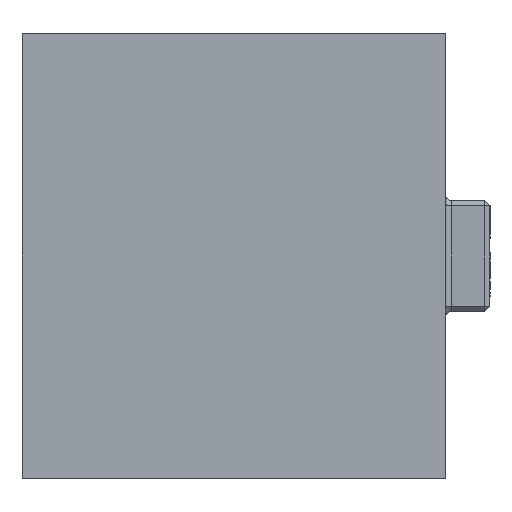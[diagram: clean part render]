
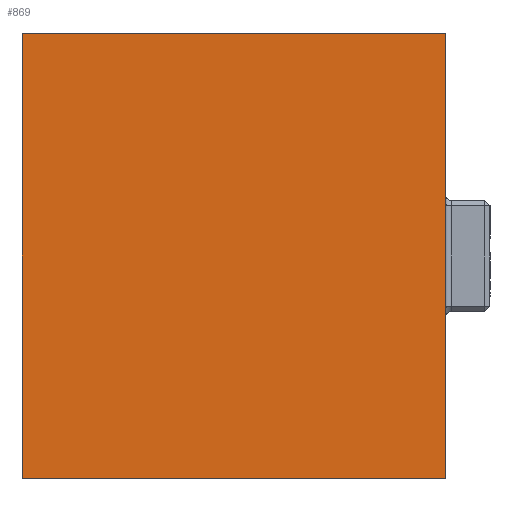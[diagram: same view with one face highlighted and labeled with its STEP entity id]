
A CAD part, left-side view. The second image highlights one B-rep face of the part: STEP entity #869.
In plain terms, the highlighted planar face has unit normal (-1, 0, 0).
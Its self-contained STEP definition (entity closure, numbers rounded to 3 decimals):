
#28 = DIRECTION ( 'NONE',  ( 0., 0., 1. ) ) ;
#87 = CARTESIAN_POINT ( 'NONE',  ( -38.1, 76.1, -69. ) ) ;
#102 = EDGE_CURVE ( 'NONE', #598, #1680, #111, .T. ) ;
#111 = LINE ( 'NONE', #595, #720 ) ;
#142 = VECTOR ( 'NONE', #28, 1000. ) ;
#281 = ORIENTED_EDGE ( 'NONE', *, *, #1918, .F. ) ;
#285 = PLANE ( 'NONE',  #423 ) ;
#303 = VECTOR ( 'NONE', #1435, 1000. ) ;
#354 = ORIENTED_EDGE ( 'NONE', *, *, #102, .T. ) ;
#420 = DIRECTION ( 'NONE',  ( 1., 0., 0. ) ) ;
#423 = AXIS2_PLACEMENT_3D ( 'NONE', #87, #420, #995 ) ;
#431 = CARTESIAN_POINT ( 'NONE',  ( -38.1, 76.1, -29. ) ) ;
#481 = CARTESIAN_POINT ( 'NONE',  ( -38.1, 38., -69. ) ) ;
#543 = LINE ( 'NONE', #1765, #1013 ) ;
#595 = CARTESIAN_POINT ( 'NONE',  ( -38.1, 76.1, -69. ) ) ;
#598 = VERTEX_POINT ( 'NONE', #1881 ) ;
#720 = VECTOR ( 'NONE', #728, 1000. ) ;
#728 = DIRECTION ( 'NONE',  ( 0., -1., 0. ) ) ;
#823 = CARTESIAN_POINT ( 'NONE',  ( -38.1, 76.1, -29. ) ) ;
#833 = EDGE_LOOP ( 'NONE', ( #1179, #281, #928, #354 ) ) ;
#869 = ADVANCED_FACE ( 'NONE', ( #1011 ), #285, .F. ) ;
#928 = ORIENTED_EDGE ( 'NONE', *, *, #1339, .F. ) ;
#985 = LINE ( 'NONE', #431, #303 ) ;
#988 = CARTESIAN_POINT ( 'NONE',  ( -38.1, 38., -69. ) ) ;
#995 = DIRECTION ( 'NONE',  ( 0., 0., -1. ) ) ;
#1011 = FACE_OUTER_BOUND ( 'NONE', #833, .T. ) ;
#1013 = VECTOR ( 'NONE', #1423, 1000. ) ;
#1114 = CARTESIAN_POINT ( 'NONE',  ( -38.1, 38., -29. ) ) ;
#1179 = ORIENTED_EDGE ( 'NONE', *, *, #1439, .T. ) ;
#1339 = EDGE_CURVE ( 'NONE', #598, #1617, #543, .T. ) ;
#1423 = DIRECTION ( 'NONE',  ( 0., 0., 1. ) ) ;
#1435 = DIRECTION ( 'NONE',  ( 0., -1., 0. ) ) ;
#1439 = EDGE_CURVE ( 'NONE', #1680, #1619, #1509, .T. ) ;
#1509 = LINE ( 'NONE', #481, #142 ) ;
#1617 = VERTEX_POINT ( 'NONE', #823 ) ;
#1619 = VERTEX_POINT ( 'NONE', #1114 ) ;
#1680 = VERTEX_POINT ( 'NONE', #988 ) ;
#1765 = CARTESIAN_POINT ( 'NONE',  ( -38.1, 76.1, -69. ) ) ;
#1881 = CARTESIAN_POINT ( 'NONE',  ( -38.1, 76.1, -69. ) ) ;
#1918 = EDGE_CURVE ( 'NONE', #1617, #1619, #985, .T. ) ;
